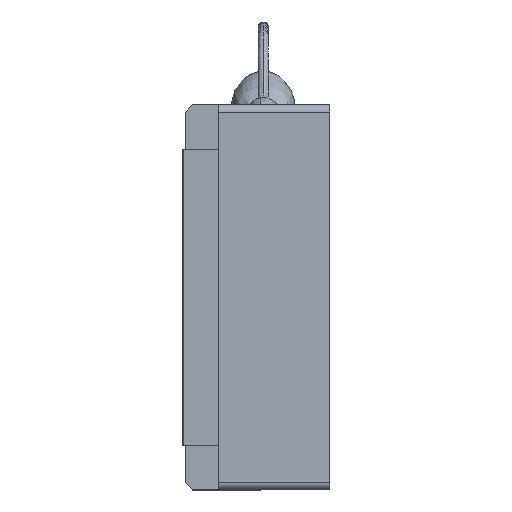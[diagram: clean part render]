
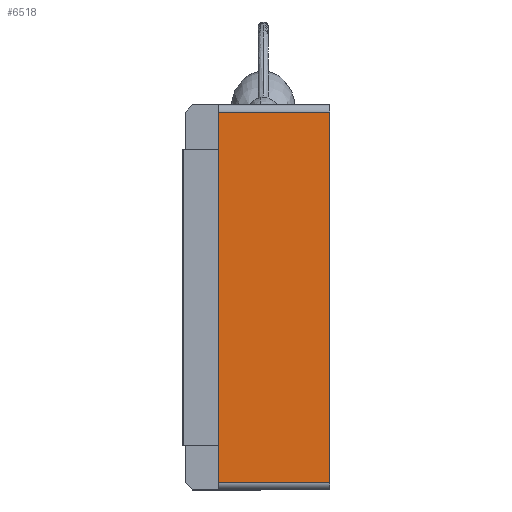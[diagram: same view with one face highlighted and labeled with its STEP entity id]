
A CAD part, left-side view. The second image highlights one B-rep face of the part: STEP entity #6518.
In plain terms, the highlighted planar face has unit normal (-1, 0, 0).
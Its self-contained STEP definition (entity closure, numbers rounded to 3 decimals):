
#123 = FACE_OUTER_BOUND ( 'NONE', #3450, .T. ) ;
#618 = ORIENTED_EDGE ( 'NONE', *, *, #4954, .T. ) ;
#858 = DIRECTION ( 'NONE',  ( 0., -1., 0. ) ) ;
#894 = VECTOR ( 'NONE', #7876, 1000. ) ;
#1400 = VECTOR ( 'NONE', #3164, 1000. ) ;
#1706 = AXIS2_PLACEMENT_3D ( 'NONE', #3066, #7334, #3698 ) ;
#2090 = CARTESIAN_POINT ( 'NONE',  ( -94.5, 30., 50. ) ) ;
#2294 = ORIENTED_EDGE ( 'NONE', *, *, #2370, .T. ) ;
#2370 = EDGE_CURVE ( 'NONE', #2686, #3815, #5126, .T. ) ;
#2545 = CARTESIAN_POINT ( 'NONE',  ( -94.5, 0., -52. ) ) ;
#2686 = VERTEX_POINT ( 'NONE', #3389 ) ;
#2714 = CARTESIAN_POINT ( 'NONE',  ( -94.5, 30., -50. ) ) ;
#2842 = CARTESIAN_POINT ( 'NONE',  ( -94.5, 30., 50. ) ) ;
#3066 = CARTESIAN_POINT ( 'NONE',  ( -94.5, 30., -52. ) ) ;
#3090 = PLANE ( 'NONE',  #1706 ) ;
#3164 = DIRECTION ( 'NONE',  ( 0., 0., 1. ) ) ;
#3389 = CARTESIAN_POINT ( 'NONE',  ( -94.5, 0., 50. ) ) ;
#3450 = EDGE_LOOP ( 'NONE', ( #4946, #618, #4956, #2294 ) ) ;
#3621 = CARTESIAN_POINT ( 'NONE',  ( -94.5, 30., -52. ) ) ;
#3698 = DIRECTION ( 'NONE',  ( 0., 0., -1. ) ) ;
#3815 = VERTEX_POINT ( 'NONE', #2090 ) ;
#4580 = VECTOR ( 'NONE', #858, 1000. ) ;
#4765 = VERTEX_POINT ( 'NONE', #4965 ) ;
#4946 = ORIENTED_EDGE ( 'NONE', *, *, #6366, .F. ) ;
#4954 = EDGE_CURVE ( 'NONE', #4765, #6397, #7820, .T. ) ;
#4956 = ORIENTED_EDGE ( 'NONE', *, *, #5605, .T. ) ;
#4965 = CARTESIAN_POINT ( 'NONE',  ( -94.5, 30., -50. ) ) ;
#5126 = LINE ( 'NONE', #2842, #5306 ) ;
#5306 = VECTOR ( 'NONE', #7085, 1000. ) ;
#5424 = CARTESIAN_POINT ( 'NONE',  ( -94.5, 0., -50. ) ) ;
#5605 = EDGE_CURVE ( 'NONE', #6397, #2686, #6271, .T. ) ;
#5740 = LINE ( 'NONE', #3621, #894 ) ;
#6271 = LINE ( 'NONE', #2545, #1400 ) ;
#6366 = EDGE_CURVE ( 'NONE', #4765, #3815, #5740, .T. ) ;
#6397 = VERTEX_POINT ( 'NONE', #5424 ) ;
#6518 = ADVANCED_FACE ( 'NONE', ( #123 ), #3090, .F. ) ;
#7085 = DIRECTION ( 'NONE',  ( 0., 1., 0. ) ) ;
#7334 = DIRECTION ( 'NONE',  ( 1., 0., 0. ) ) ;
#7820 = LINE ( 'NONE', #2714, #4580 ) ;
#7876 = DIRECTION ( 'NONE',  ( 0., 0., 1. ) ) ;
